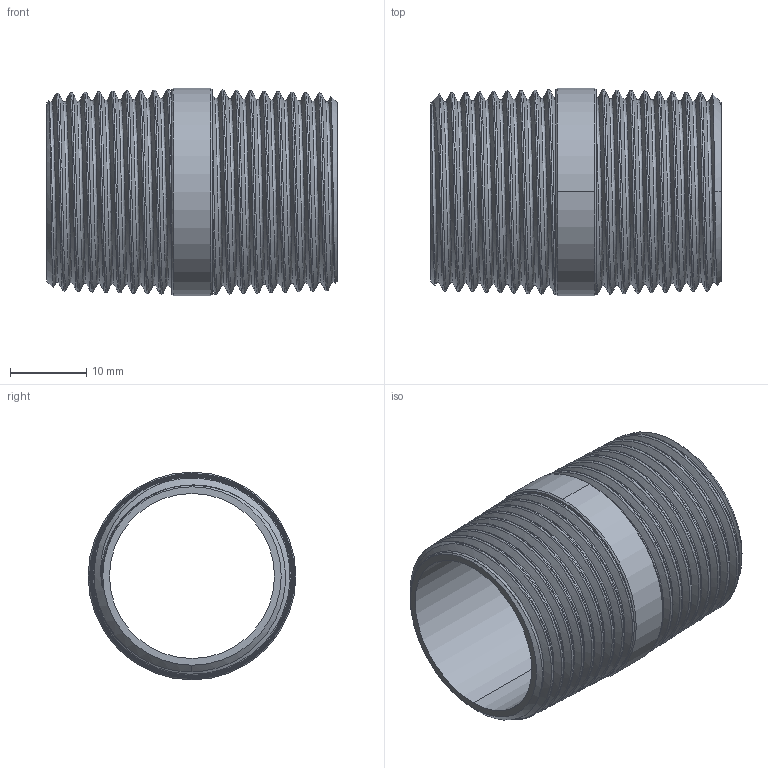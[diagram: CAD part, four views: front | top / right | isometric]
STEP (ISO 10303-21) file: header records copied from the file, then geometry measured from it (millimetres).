
FILE_DESCRIPTION (( 'STEP AP214' ), '1' );
FILE_NAME ('Barrel-nipple-20A.STEP', '2024-08-28T23:43:16', ( 'ASIS User' ), ( 'ASIS User' ), 'SwSTEP 2.0', 'SolidWorks 2023', '' );
FILE_SCHEMA (( 'AUTOMOTIVE_DESIGN' ));
Length unit declared in the file: millimetre
Products named in the file (1): Barrel-nipple-20A
Bounding box: 38 x 27.2 x 27.2 mm (x, y, z)
Volume: 5423.4 mm3; surface area: 7656.5 mm2
Topology: 1 solids, 1 shells, 26 faces, 71 edges, 47 vertices
Faces by surface type: bspline 10, cone 8, cylinder 4, plane 4
Entity records: 13226 total; most frequent: CARTESIAN_POINT 12637, ORIENTED_EDGE 142, DIRECTION 82, EDGE_CURVE 71, VERTEX_POINT 47, B_SPLINE_CURVE_WITH_KNOTS 41, AXIS2_PLACEMENT_3D 35, EDGE_LOOP 28
